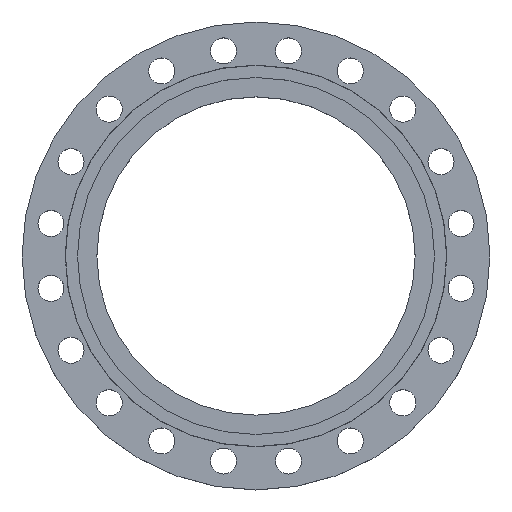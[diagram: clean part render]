
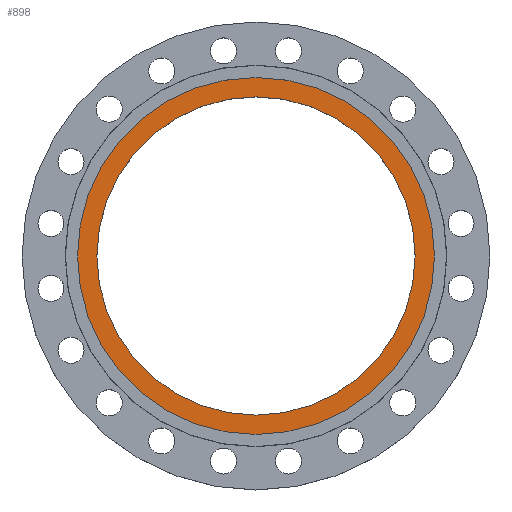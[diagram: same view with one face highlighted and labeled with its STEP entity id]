
A CAD part, top view. The second image highlights one B-rep face of the part: STEP entity #898.
In plain terms, the highlighted planar face has unit normal (0, 0, 1).
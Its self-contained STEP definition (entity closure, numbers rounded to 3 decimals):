
#29 = DIRECTION ( 'NONE',  ( 1., 0., 0. ) ) ;
#57 = CARTESIAN_POINT ( 'NONE',  ( 0., 0., -5. ) ) ;
#167 = VERTEX_POINT ( 'NONE', #1799 ) ;
#184 = DIRECTION ( 'NONE',  ( 0., 0., -1. ) ) ;
#221 = DIRECTION ( 'NONE',  ( 0., 0., 1. ) ) ;
#256 = CIRCLE ( 'NONE', #1489, 288. ) ;
#328 = EDGE_LOOP ( 'NONE', ( #1247, #351 ) ) ;
#351 = ORIENTED_EDGE ( 'NONE', *, *, #408, .F. ) ;
#357 = ORIENTED_EDGE ( 'NONE', *, *, #1361, .F. ) ;
#367 = FACE_OUTER_BOUND ( 'NONE', #1285, .T. ) ;
#408 = EDGE_CURVE ( 'NONE', #1225, #949, #1180, .T. ) ;
#547 = AXIS2_PLACEMENT_3D ( 'NONE', #57, #677, #1311 ) ;
#603 = DIRECTION ( 'NONE',  ( 1., 0., 0. ) ) ;
#662 = CIRCLE ( 'NONE', #1550, 256.75 ) ;
#677 = DIRECTION ( 'NONE',  ( 0., 0., -1. ) ) ;
#802 = DIRECTION ( 'NONE',  ( -1., 0., 0. ) ) ;
#809 = CARTESIAN_POINT ( 'NONE',  ( 0., 0., -5. ) ) ;
#836 = DIRECTION ( 'NONE',  ( 1., 0., 0. ) ) ;
#898 = ADVANCED_FACE ( 'NONE', ( #1750, #367 ), #993, .T. ) ;
#949 = VERTEX_POINT ( 'NONE', #1631 ) ;
#993 = PLANE ( 'NONE',  #1906 ) ;
#1180 = CIRCLE ( 'NONE', #1186, 256.75 ) ;
#1186 = AXIS2_PLACEMENT_3D ( 'NONE', #809, #1435, #29 ) ;
#1225 = VERTEX_POINT ( 'NONE', #1418 ) ;
#1247 = ORIENTED_EDGE ( 'NONE', *, *, #1885, .F. ) ;
#1249 = EDGE_CURVE ( 'NONE', #1505, #167, #256, .T. ) ;
#1285 = EDGE_LOOP ( 'NONE', ( #1425, #357 ) ) ;
#1311 = DIRECTION ( 'NONE',  ( -1., 0., 0. ) ) ;
#1361 = EDGE_CURVE ( 'NONE', #167, #1505, #1679, .T. ) ;
#1381 = CARTESIAN_POINT ( 'NONE',  ( 0., 0., -5. ) ) ;
#1418 = CARTESIAN_POINT ( 'NONE',  ( -256.75, 0., -5. ) ) ;
#1425 = ORIENTED_EDGE ( 'NONE', *, *, #1249, .F. ) ;
#1435 = DIRECTION ( 'NONE',  ( 0., 0., 1. ) ) ;
#1489 = AXIS2_PLACEMENT_3D ( 'NONE', #1576, #184, #802 ) ;
#1505 = VERTEX_POINT ( 'NONE', #1800 ) ;
#1550 = AXIS2_PLACEMENT_3D ( 'NONE', #1381, #1965, #603 ) ;
#1576 = CARTESIAN_POINT ( 'NONE',  ( 0., 0., -5. ) ) ;
#1609 = CARTESIAN_POINT ( 'NONE',  ( 288., 0., -5. ) ) ;
#1631 = CARTESIAN_POINT ( 'NONE',  ( 256.75, 0., -5. ) ) ;
#1679 = CIRCLE ( 'NONE', #547, 288. ) ;
#1750 = FACE_BOUND ( 'NONE', #328, .T. ) ;
#1799 = CARTESIAN_POINT ( 'NONE',  ( 288., 0., -5. ) ) ;
#1800 = CARTESIAN_POINT ( 'NONE',  ( -288., 0., -5. ) ) ;
#1885 = EDGE_CURVE ( 'NONE', #949, #1225, #662, .T. ) ;
#1906 = AXIS2_PLACEMENT_3D ( 'NONE', #1609, #221, #836 ) ;
#1965 = DIRECTION ( 'NONE',  ( 0., 0., 1. ) ) ;
